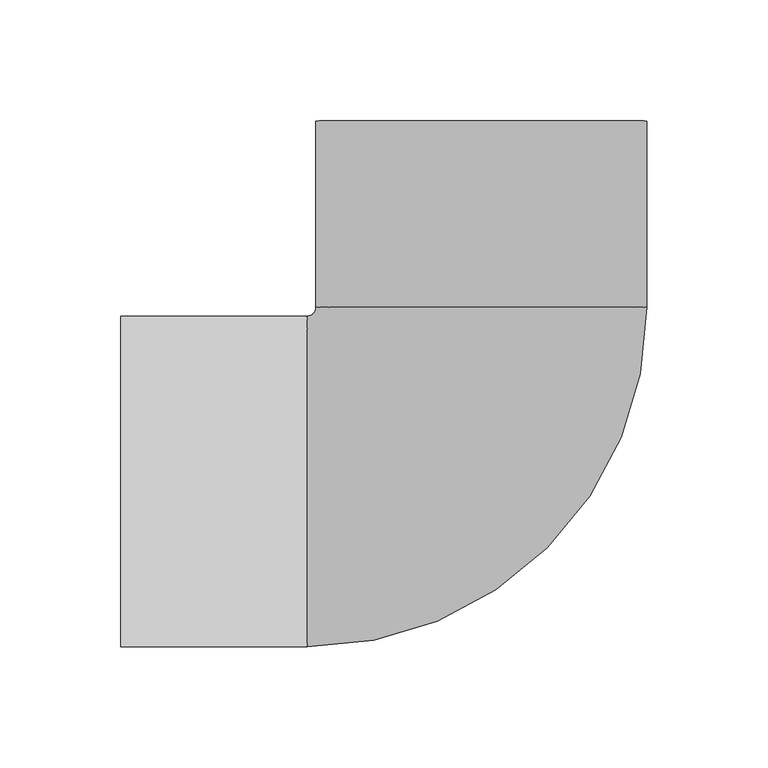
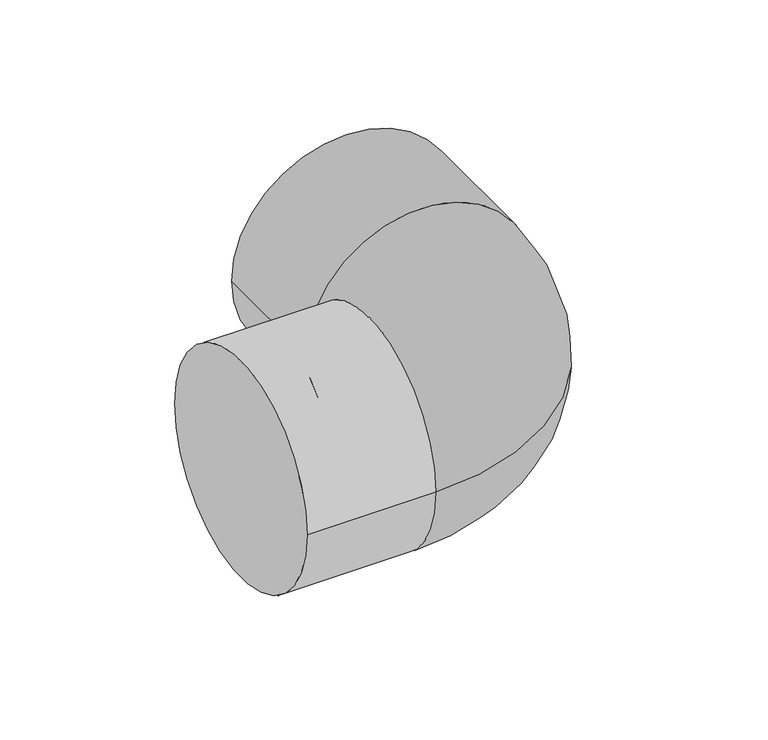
"""IFC4 building model written with IfcOpenShell, lengths in millimetres: pipe fitting geometry, 01051001 : Coudes à 90º."""

from ifc_helpers import new_model, si_unit, point, frame, origin, place, context, project, spatial, circle_curve, ellipse_curve, trimmed, source, transform, mapped, element, save
from ifc_brep_helpers import plane_surface, cylinder_surface, revolved_surface, advanced_brep


def pipe_fitting_accb5f9c(model_context):
    return source(origin(), model_context, "Body", "AdvancedBrep", [
        advanced_brep(
        [(-72.0, -68.4, 0.0), (68.4, 72.0, 0.0), (-68.4, 72.0, 0.0), (-72.0, 68.4, 0.0), (-68.4, 149.0, 0.0), (68.4, 149.0, 0.0), (-149.0, 68.4, 0.0), (-149.0, -68.4, 0.0)],
        [
            (0, 1, circle_curve(frame((-72.0, 72.0, 0.0), z_axis=(0.0, 0.0, 1.0), x_axis=(1.0, 0.0, 0.0)), 140.4)),
            (1, 2, circle_curve(frame((0.0, 72.0, 0.0), z_axis=(0.0, -1.0, 0.0), x_axis=(1.0, 0.0, 0.0)), 68.4)),
            (2, 3, circle_curve(frame((-72.0, 72.0, 0.0), z_axis=(0.0, 0.0, -1.0), x_axis=(1.0, 0.0, 0.0)), 3.6)),
            (3, 0, circle_curve(frame((-72.0, 0.0, 0.0), z_axis=(1.0, 0.0, 0.0), x_axis=(0.0, -1.0, 0.0)), 68.4)),
            (2, 1, circle_curve(frame((0.0, 72.0, 0.0), z_axis=(0.0, -1.0, 0.0), x_axis=(1.0, 0.0, 0.0)), 68.4)),
            (0, 3, circle_curve(frame((-72.0, 0.0, 0.0), z_axis=(1.0, 0.0, 0.0), x_axis=(0.0, -1.0, 0.0)), 68.4)),
            (4, 5, circle_curve(frame((0.0, 149.0, 0.0), z_axis=(0.0, 1.0, 0.0), x_axis=(1.0, 0.0, 0.0)), 68.4)),
            (5, 4, circle_curve(frame((0.0, 149.0, 0.0), z_axis=(0.0, 1.0, 0.0), x_axis=(1.0, 0.0, 0.0)), 68.4)),
            (4, 2),
            (1, 5),
            (6, 7, circle_curve(frame((-149.0, 0.0, 0.0), z_axis=(-1.0, 0.0, 0.0), x_axis=(0.0, -1.0, 0.0)), 68.4)),
            (7, 6, circle_curve(frame((-149.0, 0.0, 0.0), z_axis=(-1.0, 0.0, 0.0), x_axis=(0.0, -1.0, 0.0)), 68.4)),
            (3, 6),
            (7, 0),
        ],
        [
            revolved_surface(trimmed(ellipse_curve(frame((0.0, 72.0, 0.0), z_axis=(0.0, 1.0, 0.0), x_axis=(1.0, 0.0, 0.0)), 68.4, 68.4), [point((-68.4, 72.0, 0.0))], [point((68.4, 72.0, 0.0))], True, "CARTESIAN"), (-72.0, 72.0, 0.0), (0.0, 0.0, -1.0)),
            revolved_surface(trimmed(ellipse_curve(frame((0.0, 72.0, 0.0), z_axis=(0.0, 1.0, 0.0), x_axis=(1.0, 0.0, 0.0)), 68.4, 68.4), [point((68.4, 72.0, 0.0))], [point((-68.4, 72.0, 0.0))], True, "CARTESIAN"), (-72.0, 72.0, 0.0), (0.0, 0.0, -1.0)),
            plane_surface(frame((0.0, 149.0, 0.0), z_axis=(0.0, 1.0, 0.0), x_axis=(0.0, 0.0, 1.0))),
            cylinder_surface(frame((0.0, 149.0, 0.0), z_axis=(0.0, 1.0, 0.0), x_axis=(1.0, 0.0, 0.0)), 68.4),
            plane_surface(frame((-149.0, 0.0, 0.0), z_axis=(-1.0, 0.0, 0.0), x_axis=(0.0, 0.0, 1.0))),
            cylinder_surface(frame((-72.0, 0.0, 0.0), z_axis=(1.0, 0.0, 0.0), x_axis=(0.0, -1.0, 0.0)), 68.4),
        ],
        [
            (0, [[1, 2, 3, 4]]),
            (1, [[-3, 5, -1, 6]]),
            (2, [[7, 8]]),
            (3, [[-7, 9, -2, 10]]),
            (3, [[-8, -10, -5, -9]]),
            (4, [[11, 12]]),
            (5, [[-4, 13, -12, 14]]),
            (5, [[-6, -14, -11, -13]]),
        ],
    ),
    ])


if __name__ == "__main__":
    model = new_model("IFC4")
    model_context = context("Model", 3, world=origin())
    ifc_project = project(units=[si_unit("LENGTHUNIT", "METRE", prefix="MILLI")], contexts=[model_context])
    site = spatial("IfcSite", under=ifc_project)
    building = spatial("IfcBuilding", under=site)
    placement = place(None, origin())
    pipe_fitting_shape = pipe_fitting_accb5f9c(model_context)
    element("IfcPipeFitting", 1, ObjectType="01051001 : Coudes à 90º", at=placement, inside=building, context=model_context, shape_type="MappedRepresentation", body=[
        mapped(pipe_fitting_shape, transform((0.0, 0.0, 0.0), x_axis=(1.0, 0.0, 0.0), y_axis=(0.0, 1.0, 0.0), z_axis=(0.0, 0.0, 1.0))),
    ])
    save(model, "model.ifc")
